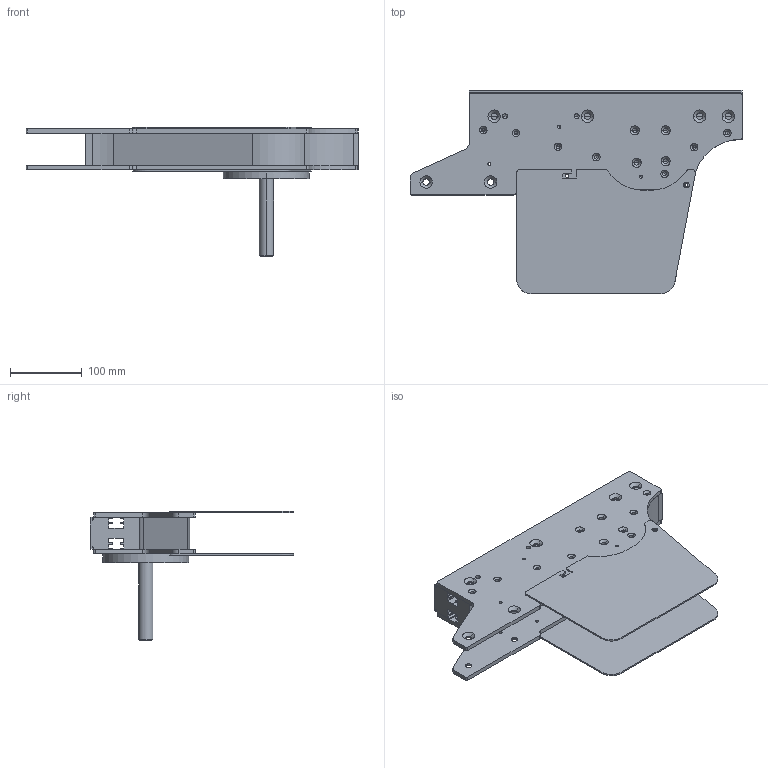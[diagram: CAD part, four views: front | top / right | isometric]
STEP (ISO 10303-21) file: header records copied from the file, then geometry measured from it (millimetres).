
FILE_DESCRIPTION (( 'STEP AP214' ), '1' );
FILE_NAME ('FKID DD 0L.step', '2017-04-07T11:07:09', ( '' ), ( '' ), 'SwSTEP 2.0', 'SolidWorks 2016', '' );
FILE_SCHEMA (( 'AUTOMOTIVE_DESIGN' ));
Length unit declared in the file: millimetre
Products named in the file (1): FKID DD 0L
Bounding box: 462.8 x 283.41 x 180.2 mm (x, y, z)
Volume: 2413096.5 mm3; surface area: 568568.3 mm2
Topology: 5 solids, 5 shells, 510 faces, 1334 edges, 817 vertices
Faces by surface type: cylinder 252, cone 132, plane 126
Entity records: 17797 total; most frequent: DIRECTION 2882, CARTESIAN_POINT 2632, ORIENTED_EDGE 2560, EDGE_CURVE 1280, AXIS2_PLACEMENT_3D 1099, VERTEX_POINT 817, VECTOR 684, LINE 684
